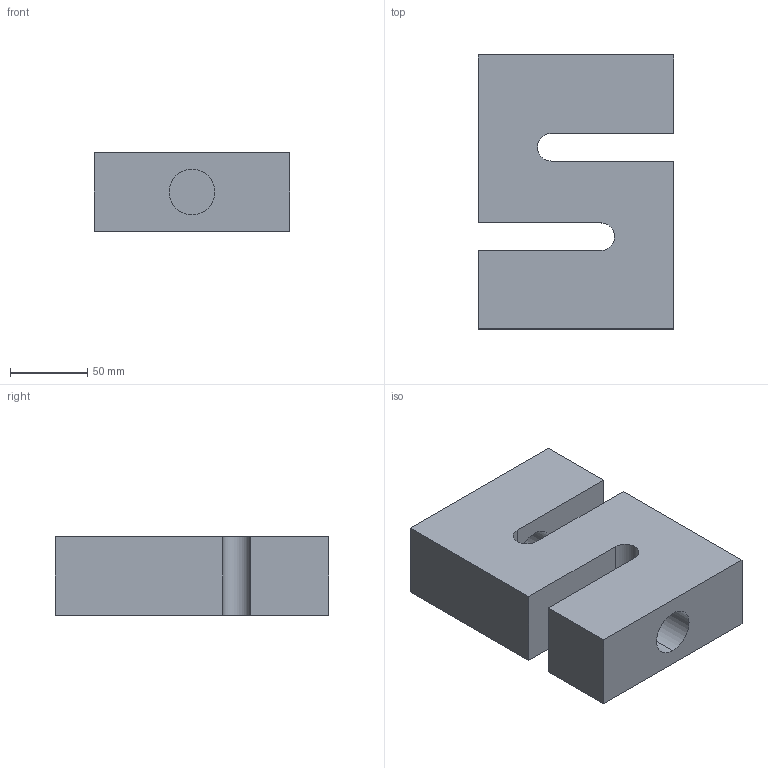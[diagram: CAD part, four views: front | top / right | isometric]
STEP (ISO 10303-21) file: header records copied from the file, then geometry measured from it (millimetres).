
FILE_DESCRIPTION (( 'STEP AP203' ), '1' );
FILE_NAME ('ras1-20000 kg.STEP', '2018-03-30T04:40:32', ( '' ), ( '' ), 'SwSTEP 2.0', 'SolidWorks 2016', '' );
FILE_SCHEMA (( 'CONFIG_CONTROL_DESIGN' ));
Length unit declared in the file: inch
Products named in the file (1): ras1-20000 kg
Bounding box: 127 x 177.8 x 50.8 mm (x, y, z)
Volume: 917748.6 mm3; surface area: 93801.1 mm2
Topology: 1 solids, 1 shells, 19 faces, 51 edges, 34 vertices
Faces by surface type: plane 12, cylinder 7
Entity records: 686 total; most frequent: CARTESIAN_POINT 105, DIRECTION 105, ORIENTED_EDGE 102, EDGE_CURVE 51, VECTOR 37, LINE 37, AXIS2_PLACEMENT_3D 34, VERTEX_POINT 34
